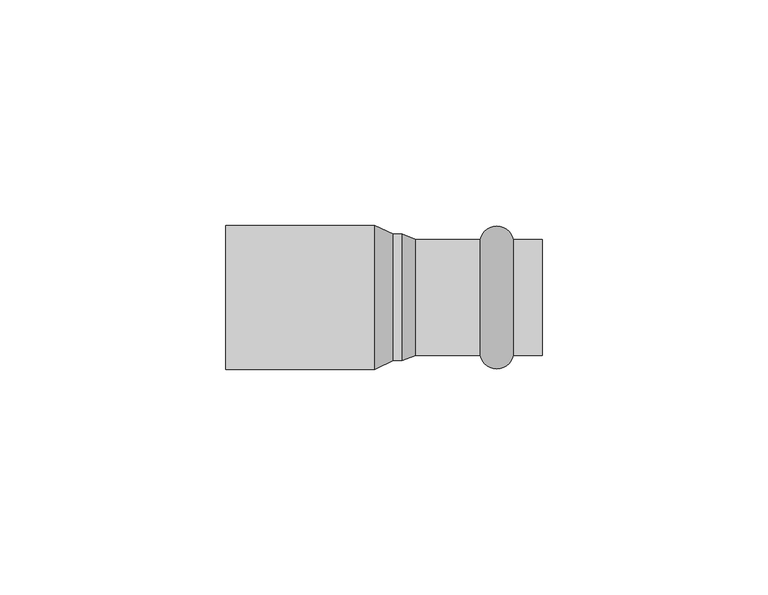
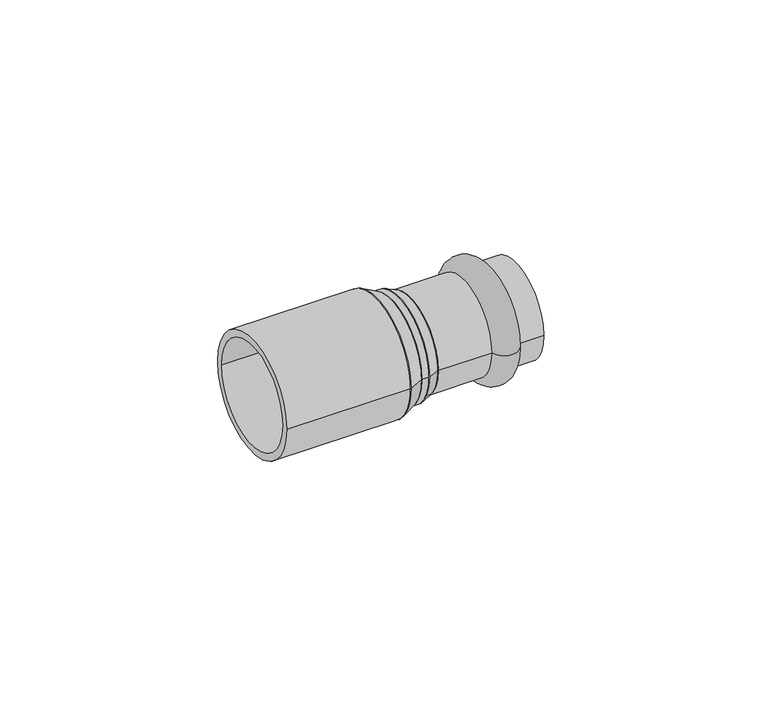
"""IFC4 building model written with IfcOpenShell, lengths in millimetres: pipe fitting geometry, VALTEC_VTi.905.I_Вставка переходная_Нержавеющая сталь : VTi.905.I."""

import ifcopenshell
import ifcopenshell.guid

model = None  # the IFC model being written
_history = None  # IfcOwnerHistory: only IFC2X3 demands one
_inside = {}  # id of a spatial element -> (the spatial element, [elements in it])
_under = {}  # id of a project, library or spatial element -> (it, [spatial elements below it])
_declared = {}  # id of a project -> (the project, [libraries it declares])
_typed = {}  # id of a type object -> (the type object, [elements of that type])
_made_of = {}  # id of a material, layer set ... -> (it, [elements and type objects made of it])


def new_model(schema):
    """Start an empty IFC model of exactly this schema.

    Asked for "IFC4X3", IfcOpenShell would pick the latest addendum, in which some entities
    have other attributes; the version numbers below select the first issue.
    IFC2X3 requires an IfcOwnerHistory on every rooted entity: one is made here for all.
    """
    global model, _history
    if schema == "IFC4X3":
        model = ifcopenshell.file(schema_version=(4, 3, 0, 0))
    else:
        model = ifcopenshell.file(schema=schema)
    _inside.clear()
    _under.clear()
    _declared.clear()
    _typed.clear()
    _made_of.clear()
    _history = None
    if model.schema == "IFC2X3":
        org = make("IfcOrganization", Name="unknown")
        user = make(
            "IfcPersonAndOrganization",
            ThePerson=make("IfcPerson", FamilyName="unknown"),
            TheOrganization=org,
        )
        app = make(
            "IfcApplication",
            ApplicationDeveloper=org,
            Version="unknown",
            ApplicationFullName="unknown",
            ApplicationIdentifier="unknown",
        )
        _history = make(
            "IfcOwnerHistory",
            OwningUser=user,
            OwningApplication=app,
            ChangeAction="ADDED",
            CreationDate=0,
        )
    return model


def make(cls, **values):
    """One entity of the class cls with the attributes given. An attribute that is None is left unset."""
    return model.create_entity(
        cls, **{name: value for name, value in values.items() if value is not None}
    )


def rooted(cls, **values):
    """An entity with a GlobalId (a new one), such as an element, a storey or a relation."""
    return make(cls, GlobalId=ifcopenshell.guid.new(), OwnerHistory=_history, **values)


def si_unit(unit_type, name, prefix=None):
    """IfcSIUnit, for example si_unit("LENGTHUNIT", "METRE", prefix="MILLI")."""
    return make("IfcSIUnit", UnitType=unit_type, Prefix=prefix, Name=name)


def assignment(units):
    """IfcUnitAssignment: the units of a project."""
    return None if units is None else make("IfcUnitAssignment", Units=units)


def point(xyz):
    """IfcCartesianPoint."""
    return None if xyz is None else make("IfcCartesianPoint", Coordinates=xyz)


def direction(xyz):
    """IfcDirection."""
    return None if xyz is None else make("IfcDirection", DirectionRatios=xyz)


def frame(location, z_axis=None, x_axis=None):
    """IfcAxis2Placement3D, a coordinate frame: its origin and axes. An axis left out is left unset."""
    return make(
        "IfcAxis2Placement3D",
        Location=point(location),
        Axis=direction(z_axis),
        RefDirection=direction(x_axis),
    )


def frame_2d(location, x_axis=None):
    """IfcAxis2Placement2D, a coordinate frame in the plane: its origin and x axis."""
    return make(
        "IfcAxis2Placement2D", Location=point(location), RefDirection=direction(x_axis)
    )


def origin():
    """The frame at (0, 0, 0) with its axes left unset."""
    return frame((0.0, 0.0, 0.0))


def origin_2d():
    """The frame at (0, 0) in the plane with its x axis left unset."""
    return frame_2d((0.0, 0.0))


def place(relative_to, where):
    """IfcLocalPlacement: puts the frame where relative to a parent placement (None: the world)."""
    return make(
        "IfcLocalPlacement", PlacementRelTo=relative_to, RelativePlacement=where
    )


def context(
    kind, dimensions, precision=None, world=None, true_north=None, identifier=None
):
    """IfcGeometricRepresentationContext, for example the 3D "Model" context."""
    return make(
        "IfcGeometricRepresentationContext",
        ContextIdentifier=identifier,
        ContextType=kind,
        CoordinateSpaceDimension=dimensions,
        Precision=precision,
        WorldCoordinateSystem=world,
        TrueNorth=true_north,
    )


def project(units=None, contexts=None):
    """IfcProject with its units and contexts."""
    return rooted(
        "IfcProject",
        Name="project",
        RepresentationContexts=contexts,
        UnitsInContext=assignment(units),
    )


def spatial(cls, under=None, at=None, **own):
    """A site, building, storey or space (cls), placed at a placement, below another one or the project."""
    s = rooted(cls, ObjectPlacement=at, **own)
    if under is not None:
        _under.setdefault(under.id(), (under, []))[1].append(s)
    return s


def polyline(points):
    """IfcPolyline through the points."""
    return make("IfcPolyline", Points=[point(p) for p in points])


def circle_curve(where, radius):
    """IfcCircle in the frame where."""
    return make("IfcCircle", Position=where, Radius=radius)


def ellipse_curve(where, semi_axis1, semi_axis2):
    """IfcEllipse in the frame where."""
    return make(
        "IfcEllipse", Position=where, SemiAxis1=semi_axis1, SemiAxis2=semi_axis2
    )


def trimmed(basis, trim1, trim2, sense, master):
    """IfcTrimmedCurve: the piece of a basis curve between two trims."""
    return make(
        "IfcTrimmedCurve",
        BasisCurve=basis,
        Trim1=trim1,
        Trim2=trim2,
        SenseAgreement=sense,
        MasterRepresentation=master,
    )


def segment(curve, same_sense, transition):
    """IfcCompositeCurveSegment."""
    return make(
        "IfcCompositeCurveSegment",
        Transition=transition,
        SameSense=same_sense,
        ParentCurve=curve,
    )


def composite_curve(segments, self_intersect=None):
    """IfcCompositeCurve: segments joined end to end."""
    return make("IfcCompositeCurve", Segments=segments, SelfIntersect=self_intersect)


def outline(outer, holes=None, kind="AREA"):
    """IfcArbitraryClosedProfileDef: a profile drawn as a closed curve; with holes, ...WithVoids."""
    if holes is None:
        return make("IfcArbitraryClosedProfileDef", ProfileType=kind, OuterCurve=outer)
    return make(
        "IfcArbitraryProfileDefWithVoids",
        ProfileType=kind,
        OuterCurve=outer,
        InnerCurves=holes,
    )


def extrude(swept, where, along, depth):
    """IfcExtrudedAreaSolid: the profile swept, set in the frame where, extruded along a direction by depth."""
    return make(
        "IfcExtrudedAreaSolid",
        SweptArea=swept,
        Position=where,
        ExtrudedDirection=direction(along),
        Depth=depth,
    )


def shape(context_of_items, identifier, shape_type, items):
    """IfcShapeRepresentation: the items that make up one representation, for example the "Body"."""
    return make(
        "IfcShapeRepresentation",
        ContextOfItems=context_of_items,
        RepresentationIdentifier=identifier,
        RepresentationType=shape_type,
        Items=items,
    )


def source(mapping_origin, context_of_items, identifier, shape_type, items):
    """IfcRepresentationMap: a shape defined once, which mapped items show again and again."""
    return make(
        "IfcRepresentationMap",
        MappingOrigin=mapping_origin,
        MappedRepresentation=shape(context_of_items, identifier, shape_type, items),
    )


def transform(
    local_origin,
    x_axis=None,
    y_axis=None,
    z_axis=None,
    scale=None,
    scale2=None,
    scale3=None,
    uniform=True,
):
    """IfcCartesianTransformationOperator3D, or its non-uniform kind. x_axis, y_axis, z_axis: its Axis1, 2, 3."""
    if uniform:
        return make(
            "IfcCartesianTransformationOperator3D",
            Axis1=direction(x_axis),
            Axis2=direction(y_axis),
            LocalOrigin=point(local_origin),
            Scale=scale,
            Axis3=direction(z_axis),
        )
    return make(
        "IfcCartesianTransformationOperator3DnonUniform",
        Axis1=direction(x_axis),
        Axis2=direction(y_axis),
        LocalOrigin=point(local_origin),
        Scale=scale,
        Axis3=direction(z_axis),
        Scale2=scale2,
        Scale3=scale3,
    )


def mapped(mapping_source, mapping_target):
    """IfcMappedItem: shows the shape of a source again, moved by a transform."""
    return make(
        "IfcMappedItem", MappingSource=mapping_source, MappingTarget=mapping_target
    )


def made_of(thing, what):
    """Note that an element or type object is made of a material, layer set ...; save() writes the relation."""
    if what is not None:
        _made_of.setdefault(what.id(), (what, []))[1].append(thing)
    return thing


def element(
    cls,
    number,
    at=None,
    inside=None,
    cuts=None,
    type_object=None,
    material=None,
    context=None,
    identifier="Body",
    shape_type=None,
    held_by="IfcProductDefinitionShape",
    body=None,
    shapes=None,
    **own,
):
    """One element of the class cls, such as IfcWall. Its Tag is "e" and its number.

    at: its placement. inside: the storey or other place that contains it. cuts: it is an
    opening in that element (IfcRelVoidsElement). A single representation is given by context,
    identifier, shape_type and body (its items); several are given by shapes. held_by: the class
    of the entity that holds the representations. save() writes the other relations.
    """
    e = rooted(cls, Tag="e%d" % number, ObjectPlacement=at, **own)
    if body is not None:
        shapes = [shape(context, identifier, shape_type, body)]
    if shapes is not None:
        e.Representation = make(held_by, Representations=shapes)
    if inside is not None:
        _inside.setdefault(inside.id(), (inside, []))[1].append(e)
    if cuts is not None:
        rooted(
            "IfcRelVoidsElement", RelatingBuildingElement=cuts, RelatedOpeningElement=e
        )
    if type_object is not None:
        _typed.setdefault(type_object.id(), (type_object, []))[1].append(e)
    return made_of(e, material)


def aggregate(whole, parts):
    """IfcRelAggregates: a whole, such as a stair, and the parts it consists of."""
    return rooted("IfcRelAggregates", RelatingObject=whole, RelatedObjects=parts)


def save(model, path):
    """Write the relations noted so far, then the file.

    IfcRelAggregates (storeys below a building ...), IfcRelContainedInSpatialStructure (elements
    in a storey), IfcRelDefinesByType, IfcRelAssociatesMaterial and IfcRelDeclares: one each for
    every whole, place, type object, material and project.
    """
    for whole, parts in _under.values():
        aggregate(whole, parts)
    for where, things in _inside.values():
        rooted(
            "IfcRelContainedInSpatialStructure",
            RelatedElements=things,
            RelatingStructure=where,
        )
    for kind, things in _typed.values():
        rooted("IfcRelDefinesByType", RelatedObjects=things, RelatingType=kind)
    for what, things in _made_of.values():
        rooted("IfcRelAssociatesMaterial", RelatedObjects=things, RelatingMaterial=what)
    for by, libraries in _declared.values():
        rooted("IfcRelDeclares", RelatingContext=by, RelatedDefinitions=libraries)
    model.write(path)


def plane_surface(at):
    """IfcPlane: the flat surface through the origin of the frame at, square to its z axis."""
    return make("IfcPlane", Position=at)


def cylinder_surface(at, radius):
    """IfcCylindricalSurface: all points at the distance radius from the z axis of the frame at."""
    return make("IfcCylindricalSurface", Position=at, Radius=radius)


def revolved_surface(curve, axis_point, axis_direction):
    """IfcSurfaceOfRevolution: the curve turned about the line through axis_point along axis_direction."""
    return make(
        "IfcSurfaceOfRevolution",
        SweptCurve=make("IfcArbitraryOpenProfileDef", ProfileType="CURVE", Curve=curve),
        AxisPosition=make("IfcAxis1Placement", Location=point(axis_point), Axis=direction(axis_direction)),
    )


def advanced_brep(points, edges, surfaces, faces):
    """IfcAdvancedBrep: a solid bounded by faces that lie on surfaces and meet in shared edges.

    An edge is (start, end): straight between two places in points (the first is 0);
    or (start, end, curve); or (start, end, curve, False) where it runs against its curve.
    A face is (place in surfaces, loops), or (place, loops, False) where it looks against
    its surface's normal. A loop lists edges by number (the first is 1), with a minus sign
    where the edge is run from its end to its start. The first loop is the outer one.
    """
    corners = [point(p) for p in points]
    vertices = [make("IfcVertexPoint", VertexGeometry=c) for c in corners]
    made = []
    for start, end, *more in edges:
        made.append(
            make(
                "IfcEdgeCurve",
                EdgeStart=vertices[start],
                EdgeEnd=vertices[end],
                EdgeGeometry=more[0] if more else make("IfcPolyline", Points=[corners[start], corners[end]]),
                SameSense=more[1] if len(more) > 1 else True,
            )
        )
    hull = []
    for where, loops, *sense in faces:
        bounds = []
        for j, loop in enumerate(loops):
            ring = [make("IfcOrientedEdge", EdgeElement=made[abs(k) - 1], Orientation=k > 0) for k in loop]
            bounds.append(
                make(
                    "IfcFaceOuterBound" if j == 0 else "IfcFaceBound",
                    Bound=make("IfcEdgeLoop", EdgeList=ring),
                    Orientation=True,
                )
            )
        hull.append(make("IfcAdvancedFace", Bounds=bounds, FaceSurface=surfaces[where], SameSense=sense[0] if sense else True))
    return make("IfcAdvancedBrep", Outer=make("IfcClosedShell", CfsFaces=hull))


def pipe_fitting_5a8a3c60(model_context):
    return source(origin(), model_context, "Body", "SolidModel", [
        advanced_brep(
        [(28.6242346, -12.8, 0.0), (21.2757654, -12.8, 0.0), (21.2757654, 12.8, 0.0), (28.6242346, 12.8, 0.0), (35.0, -12.8, 0.0), (35.0, 12.8, 0.0), (35.0, -11.0, 0.0), (35.0, 11.0, 0.0), (7.0, -11.0, 0.0), (7.0, 11.0, 0.0), (7.0, -12.8, 0.0), (7.0, 12.8, 0.0)],
        [
            (0, 1, circle_curve(frame((24.95, -12.05, 0.0), z_axis=(0.0, 0.0, -1.0), x_axis=(-1.0, 0.0, 0.0)), 3.75)),
            (1, 2, circle_curve(frame((21.2757654, 0.0, 0.0), z_axis=(1.0, 0.0, 0.0), x_axis=(0.0, 1.0, 0.0)), 12.8)),
            (2, 3, circle_curve(frame((24.95, 12.05, 0.0), z_axis=(0.0, 0.0, -1.0), x_axis=(-1.0, 0.0, 0.0)), 3.75)),
            (3, 0, circle_curve(frame((28.6242346, 0.0, 0.0), z_axis=(-1.0, 0.0, 0.0), x_axis=(0.0, 1.0, 0.0)), 12.8)),
            (2, 1, circle_curve(frame((21.2757654, 0.0, 0.0), z_axis=(1.0, 0.0, 0.0), x_axis=(0.0, 1.0, 0.0)), 12.8)),
            (0, 3, circle_curve(frame((28.6242346, 0.0, 0.0), z_axis=(-1.0, 0.0, 0.0), x_axis=(0.0, 1.0, 0.0)), 12.8)),
            (4, 0),
            (3, 5),
            (5, 4, circle_curve(frame((35.0, 0.0, 0.0), z_axis=(-1.0, 0.0, 0.0), x_axis=(0.0, 1.0, 0.0)), 12.8)),
            (4, 5, circle_curve(frame((35.0, 0.0, 0.0), z_axis=(-1.0, 0.0, 0.0), x_axis=(0.0, 1.0, 0.0)), 12.8)),
            (6, 4),
            (5, 7),
            (7, 6, circle_curve(frame((35.0, 0.0, 0.0), z_axis=(-1.0, 0.0, 0.0), x_axis=(0.0, 1.0, 0.0)), 11.0)),
            (6, 7, circle_curve(frame((35.0, 0.0, 0.0), z_axis=(-1.0, 0.0, 0.0), x_axis=(0.0, 1.0, 0.0)), 11.0)),
            (8, 6),
            (7, 9),
            (9, 8, circle_curve(frame((7.0, 0.0, 0.0), z_axis=(-1.0, 0.0, 0.0), x_axis=(0.0, 1.0, 0.0)), 11.0)),
            (8, 9, circle_curve(frame((7.0, 0.0, 0.0), z_axis=(-1.0, 0.0, 0.0), x_axis=(0.0, 1.0, 0.0)), 11.0)),
            (10, 8),
            (9, 11),
            (11, 10, circle_curve(frame((7.0, 0.0, 0.0), z_axis=(-1.0, 0.0, 0.0), x_axis=(0.0, 1.0, 0.0)), 12.8)),
            (10, 11, circle_curve(frame((7.0, 0.0, 0.0), z_axis=(-1.0, 0.0, 0.0), x_axis=(0.0, 1.0, 0.0)), 12.8)),
            (1, 10),
            (11, 2),
        ],
        [
            revolved_surface(trimmed(ellipse_curve(frame((24.95, 12.05, 0.0), z_axis=(0.0, 0.0, -1.0), x_axis=(-1.0, 0.0, 0.0)), 3.75, 3.75), [point((21.2757654, 12.8, 0.0))], [point((28.6242346, 12.8, 0.0))], True, "CARTESIAN"), (38.5364426, 0.0, 0.0), (1.0, 0.0, 0.0)),
            cylinder_surface(frame((38.5364426, 0.0, 0.0), z_axis=(1.0, 0.0, 0.0), x_axis=(0.0, 1.0, 0.0)), 12.8),
            plane_surface(frame((35.0, 0.0, 0.0), z_axis=(1.0, 0.0, 0.0), x_axis=(0.0, 1.0, 0.0))),
            revolved_surface(polyline([(35.0, 11.0, 0.0), (7.0, 11.0, 0.0)]), (38.5364426, 0.0, 0.0), (1.0, 0.0, 0.0)),
            plane_surface(frame((7.0, 0.0, 0.0), z_axis=(-1.0, 0.0, 0.0), x_axis=(0.0, 1.0, 0.0))),
        ],
        [
            (0, [[1, 2, 3, 4]]),
            (0, [[-3, 5, -1, 6]]),
            (1, [[7, -4, 8, 9]]),
            (1, [[-8, -6, -7, 10]]),
            (2, [[11, -9, 12, 13]]),
            (2, [[-12, -10, -11, 14]]),
            (3, [[15, -13, 16, 17]]),
            (3, [[-16, -14, -15, 18]]),
            (4, [[19, -17, 20, 21]]),
            (4, [[-20, -18, -19, 22]]),
            (1, [[23, -21, 24, -2]]),
            (1, [[-24, -22, -23, -5]]),
        ],
    ),
        advanced_brep(
        [(4.0, -14.0, 0.0), (4.0, 14.0, 0.0), (7.0, -12.8, 0.0), (7.0, 12.8, 0.0)],
        [
            (0, 1, circle_curve(frame((4.0, 0.0, 0.0), z_axis=(-1.0, 0.0, 0.0), x_axis=(0.0, -1.0, 0.0)), 14.0)),
            (1, 0, circle_curve(frame((4.0, 0.0, 0.0), z_axis=(-1.0, 0.0, 0.0), x_axis=(0.0, 1.0, 0.0)), 14.0)),
            (2, 3, circle_curve(frame((7.0, 0.0, 0.0), z_axis=(1.0, 0.0, 0.0), x_axis=(0.0, 1.0, 0.0)), 12.8)),
            (3, 2, circle_curve(frame((7.0, 0.0, 0.0), z_axis=(1.0, 0.0, 0.0), x_axis=(0.0, -1.0, 0.0)), 12.8)),
            (2, 0),
            (1, 3),
        ],
        [
            plane_surface(frame((4.0, 0.0, 0.0), z_axis=(-1.0, 0.0, 0.0), x_axis=(0.0, 0.0, 1.0))),
            plane_surface(frame((7.0, 0.0, 0.0), z_axis=(1.0, 0.0, 0.0), x_axis=(0.0, 0.0, 1.0))),
            revolved_surface(polyline([(7.0, -12.799999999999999, 0.0), (4.0, -14.0, 0.0)]), (39.0, 0.0, 0.0), (-1.0, 0.0, 0.0)),
            revolved_surface(polyline([(7.0, 12.799999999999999, 0.0), (4.0, 14.0, 0.0)]), (39.0, 0.0, 0.0), (-1.0, 0.0, 0.0)),
        ],
        [
            (0, [[1, 2]]),
            (1, [[3, 4]]),
            (2, [[-3, 5, -2, 6]]),
            (3, [[-4, -6, -1, -5]]),
        ],
    ),
        extrude(outline(composite_curve([segment(trimmed(circle_curve(origin_2d(), 14.0), [point((-14.0, 0.0))], [point((14.0, 0.0))], False, "CARTESIAN"), True, "CONTINUOUS"), segment(trimmed(circle_curve(origin_2d(), 14.0), [point((14.0, 0.0))], [point((-14.0, 0.0))], False, "CARTESIAN"), True, "CONTINUOUS")], self_intersect=False)), frame((2.0, 0.0, 0.0), z_axis=(1.0, 0.0, 0.0), x_axis=(0.0, 1.0, 0.0)), (0.0, 0.0, 1.0), 2.0),
        advanced_brep(
        [(2.0, -14.0, 0.0), (2.0, 14.0, 0.0), (-2.0, -15.9, 0.0), (-2.0, 15.9, 0.0)],
        [
            (0, 1, circle_curve(frame((2.0, 0.0, 0.0), z_axis=(1.0, 0.0, 0.0), x_axis=(0.0, -1.0, 0.0)), 14.0)),
            (1, 0, circle_curve(frame((2.0, 0.0, 0.0), z_axis=(1.0, 0.0, 0.0), x_axis=(0.0, 1.0, 0.0)), 14.0)),
            (2, 3, circle_curve(frame((-2.0, 0.0, 0.0), z_axis=(-1.0, 0.0, 0.0), x_axis=(0.0, 1.0, 0.0)), 15.9)),
            (3, 2, circle_curve(frame((-2.0, 0.0, 0.0), z_axis=(-1.0, 0.0, 0.0), x_axis=(0.0, -1.0, 0.0)), 15.9)),
            (3, 1),
            (0, 2),
        ],
        [
            plane_surface(frame((2.0, 0.0, 0.0), z_axis=(1.0, 0.0, 0.0), x_axis=(0.0, 0.0, -1.0))),
            plane_surface(frame((-2.0, 0.0, 0.0), z_axis=(-1.0, 0.0, 0.0), x_axis=(0.0, 0.0, -1.0))),
            revolved_surface(polyline([(2.0, -13.999999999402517, 0.0), (-2.0, -15.9, 0.0)]), (31.4736842, 0.0, 0.0), (-1.0, 0.0, 0.0)),
            revolved_surface(polyline([(2.0, 13.999999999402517, 0.0), (-2.0, 15.9, 0.0)]), (31.4736842, 0.0, 0.0), (-1.0, 0.0, 0.0)),
        ],
        [
            (0, [[1, 2]]),
            (1, [[3, 4]]),
            (2, [[-4, 5, -1, 6]]),
            (3, [[-3, -6, -2, -5]]),
        ],
    ),
        extrude(outline(composite_curve([segment(trimmed(circle_curve(origin_2d(), 15.9), [point((-15.9, 0.0))], [point((15.9, 0.0))], False, "CARTESIAN"), True, "CONTINUOUS"), segment(trimmed(circle_curve(origin_2d(), 15.9), [point((15.9, 0.0))], [point((-15.9, 0.0))], False, "CARTESIAN"), True, "CONTINUOUS")], self_intersect=False), holes=[composite_curve([segment(trimmed(circle_curve(origin_2d(), 14.0), [point((-14.0, 0.0))], [point((14.0, 0.0))], True, "CARTESIAN"), True, "CONTINUOUS"), segment(trimmed(circle_curve(origin_2d(), 14.0), [point((14.0, 0.0))], [point((-14.0, 0.0))], True, "CARTESIAN"), True, "CONTINUOUS")], self_intersect=False)]), frame((-35.0, 0.0, 0.0), z_axis=(1.0, 0.0, 0.0), x_axis=(0.0, 1.0, 0.0)), (0.0, 0.0, 1.0), 33.0),
    ])


if __name__ == "__main__":
    model = new_model("IFC4")
    model_context = context("Model", 3, world=origin())
    ifc_project = project(units=[si_unit("LENGTHUNIT", "METRE", prefix="MILLI")], contexts=[model_context])
    site = spatial("IfcSite", under=ifc_project)
    building = spatial("IfcBuilding", under=site)
    placement = place(None, origin())
    pipe_fitting_shape = pipe_fitting_5a8a3c60(model_context)
    element("IfcPipeFitting", 1, ObjectType="VALTEC_VTi.905.I_Вставка переходная_Нержавеющая сталь : VTi.905.I", at=placement, inside=building, context=model_context, shape_type="MappedRepresentation", body=[
        mapped(pipe_fitting_shape, transform((0.0, 0.0, 0.0), x_axis=(1.0, 0.0, 0.0), y_axis=(0.0, 1.0, 0.0), z_axis=(0.0, 0.0, 1.0))),
    ])
    save(model, "model.ifc")
